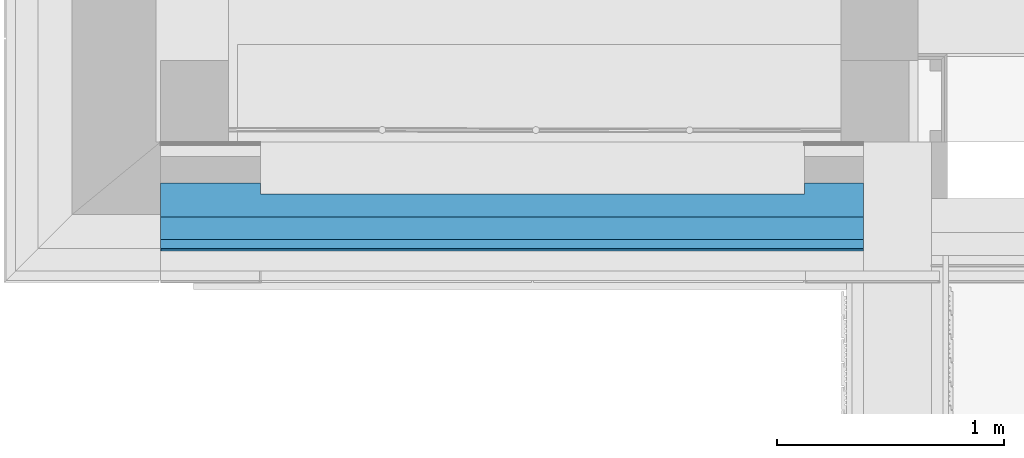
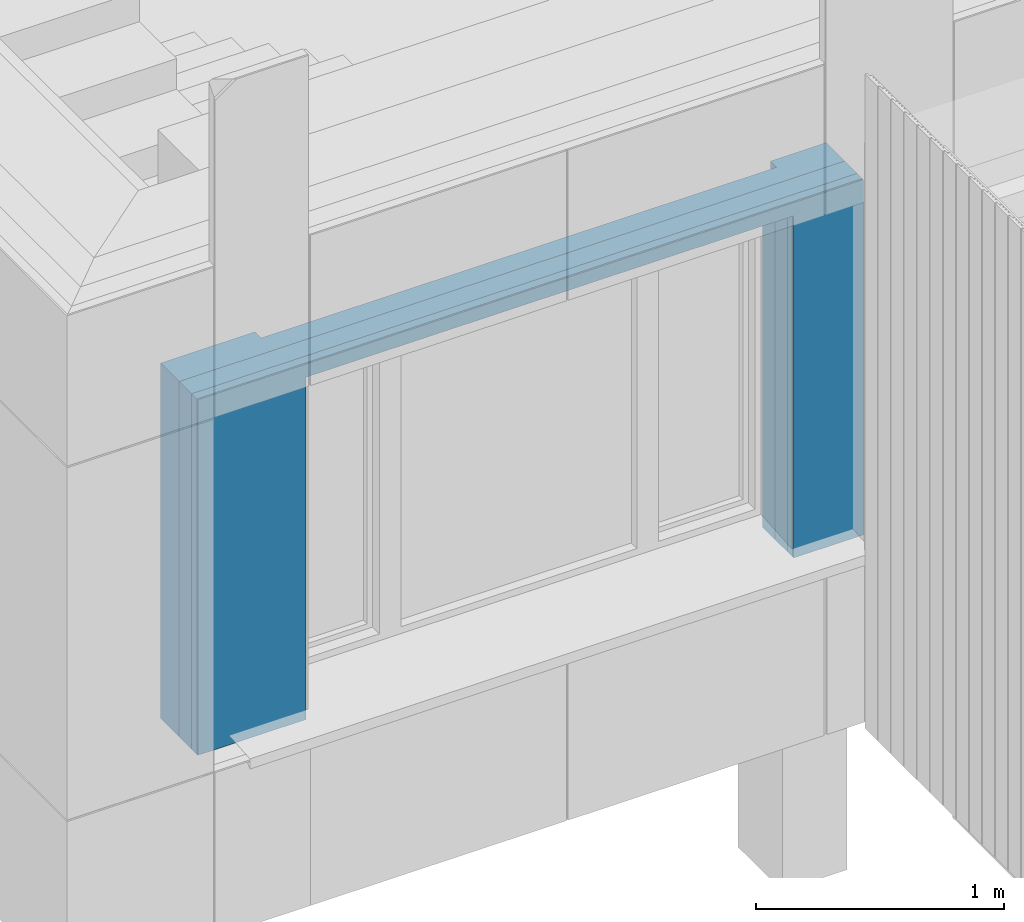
# One storey, part 29 of 418: 4 building element parts, 1 opening, 1 element without a shape of its own.
"""IFC2X3 building model written with IfcOpenShell, lengths in millimetres."""

import ifcopenshell
import ifcopenshell.guid

model = None  # the IFC model being written
_history = None  # IfcOwnerHistory: only IFC2X3 demands one
_inside = {}  # id of a spatial element -> (the spatial element, [elements in it])
_under = {}  # id of a project, library or spatial element -> (it, [spatial elements below it])
_declared = {}  # id of a project -> (the project, [libraries it declares])
_typed = {}  # id of a type object -> (the type object, [elements of that type])
_made_of = {}  # id of a material, layer set ... -> (it, [elements and type objects made of it])


def new_model(schema):
    """Start an empty IFC model of exactly this schema.

    Asked for "IFC4X3", IfcOpenShell would pick the latest addendum, in which some entities
    have other attributes; the version numbers below select the first issue.
    IFC2X3 requires an IfcOwnerHistory on every rooted entity: one is made here for all.
    """
    global model, _history
    if schema == "IFC4X3":
        model = ifcopenshell.file(schema_version=(4, 3, 0, 0))
    else:
        model = ifcopenshell.file(schema=schema)
    _inside.clear()
    _under.clear()
    _declared.clear()
    _typed.clear()
    _made_of.clear()
    _history = None
    if model.schema == "IFC2X3":
        org = make("IfcOrganization", Name="unknown")
        user = make(
            "IfcPersonAndOrganization",
            ThePerson=make("IfcPerson", FamilyName="unknown"),
            TheOrganization=org,
        )
        app = make(
            "IfcApplication",
            ApplicationDeveloper=org,
            Version="unknown",
            ApplicationFullName="unknown",
            ApplicationIdentifier="unknown",
        )
        _history = make(
            "IfcOwnerHistory",
            OwningUser=user,
            OwningApplication=app,
            ChangeAction="ADDED",
            CreationDate=0,
        )
    return model


def make(cls, **values):
    """One entity of the class cls with the attributes given. An attribute that is None is left unset."""
    return model.create_entity(
        cls, **{name: value for name, value in values.items() if value is not None}
    )


def entity(cls, *values):
    """Any entity or typed value of the class cls, its attributes in the order of the schema. None: left unset."""
    e = model.create_entity(cls)
    for i, value in enumerate(values):
        if value is not None:
            e[i] = value
    return e


def rooted(cls, **values):
    """An entity with a GlobalId (a new one), such as an element, a storey or a relation."""
    return make(cls, GlobalId=ifcopenshell.guid.new(), OwnerHistory=_history, **values)


def si_unit(unit_type, name, prefix=None):
    """IfcSIUnit, for example si_unit("LENGTHUNIT", "METRE", prefix="MILLI")."""
    return make("IfcSIUnit", UnitType=unit_type, Prefix=prefix, Name=name)


def converted_unit(unit_type, name, factor, base, dimensions=None, offset=None):
    """IfcConversionBasedUnit, such as the inch: factor (a typed value) times the base unit."""
    return make(
        "IfcConversionBasedUnit"
        if offset is None
        else "IfcConversionBasedUnitWithOffset",
        ConversionOffset=offset,
        Dimensions=None
        if dimensions is None
        else entity("IfcDimensionalExponents", *dimensions),
        UnitType=unit_type,
        Name=name,
        ConversionFactor=make(
            "IfcMeasureWithUnit", ValueComponent=factor, UnitComponent=base
        ),
    )


def derived_unit(unit_type, elements):
    """IfcDerivedUnit: a product of units, each with its exponent."""
    return make(
        "IfcDerivedUnit",
        Elements=[
            make("IfcDerivedUnitElement", Unit=unit, Exponent=power)
            for unit, power in elements
        ],
        UnitType=unit_type,
    )


def money_unit(currency):
    """IfcMonetaryUnit."""
    return make("IfcMonetaryUnit", Currency=currency)


def assignment(units):
    """IfcUnitAssignment: the units of a project."""
    return None if units is None else make("IfcUnitAssignment", Units=units)


def point(xyz):
    """IfcCartesianPoint."""
    return None if xyz is None else make("IfcCartesianPoint", Coordinates=xyz)


def direction(xyz):
    """IfcDirection."""
    return None if xyz is None else make("IfcDirection", DirectionRatios=xyz)


def frame(location, z_axis=None, x_axis=None):
    """IfcAxis2Placement3D, a coordinate frame: its origin and axes. An axis left out is left unset."""
    return make(
        "IfcAxis2Placement3D",
        Location=point(location),
        Axis=direction(z_axis),
        RefDirection=direction(x_axis),
    )


def frame_2d(location, x_axis=None):
    """IfcAxis2Placement2D, a coordinate frame in the plane: its origin and x axis."""
    return make(
        "IfcAxis2Placement2D", Location=point(location), RefDirection=direction(x_axis)
    )


def origin_with_axes():
    """The frame at (0, 0, 0) with the z axis (0, 0, 1) and the x axis (1, 0, 0) written out."""
    return frame((0.0, 0.0, 0.0), z_axis=(0.0, 0.0, 1.0), x_axis=(1.0, 0.0, 0.0))


def origin_2d_with_axis():
    """The frame at (0, 0) in the plane with the x axis (1, 0) written out."""
    return frame_2d((0.0, 0.0), x_axis=(1.0, 0.0))


def place(relative_to, where):
    """IfcLocalPlacement: puts the frame where relative to a parent placement (None: the world)."""
    return make(
        "IfcLocalPlacement", PlacementRelTo=relative_to, RelativePlacement=where
    )


def context(
    kind, dimensions, precision=None, world=None, true_north=None, identifier=None
):
    """IfcGeometricRepresentationContext, for example the 3D "Model" context."""
    return make(
        "IfcGeometricRepresentationContext",
        ContextIdentifier=identifier,
        ContextType=kind,
        CoordinateSpaceDimension=dimensions,
        Precision=precision,
        WorldCoordinateSystem=world,
        TrueNorth=true_north,
    )


def subcontext(parent, identifier, kind, view, scale=None):
    """IfcGeometricRepresentationSubContext, for example "Body" below "Model"."""
    return make(
        "IfcGeometricRepresentationSubContext",
        ContextIdentifier=identifier,
        ContextType=kind,
        ParentContext=parent,
        TargetScale=scale,
        TargetView=view,
    )


def project(units=None, contexts=None):
    """IfcProject with its units and contexts."""
    return rooted(
        "IfcProject",
        Name="project",
        RepresentationContexts=contexts,
        UnitsInContext=assignment(units),
    )


def spatial(cls, under=None, at=None, **own):
    """A site, building, storey or space (cls), placed at a placement, below another one or the project."""
    s = rooted(cls, ObjectPlacement=at, **own)
    if under is not None:
        _under.setdefault(under.id(), (under, []))[1].append(s)
    return s


def polyline(points):
    """IfcPolyline through the points."""
    return make("IfcPolyline", Points=[point(p) for p in points])


def profile(cls, at=None, kind="AREA", **sizes):
    """A parametric profile (cls). Its sizes go by their IFC names, for example OverallWidth=200.0."""
    return make(cls, ProfileType=kind, Position=at, **sizes)


def rectangle(**sizes):
    """IfcRectangleProfileDef."""
    return profile("IfcRectangleProfileDef", **sizes)


def outline(outer, holes=None, kind="AREA"):
    """IfcArbitraryClosedProfileDef: a profile drawn as a closed curve; with holes, ...WithVoids."""
    if holes is None:
        return make("IfcArbitraryClosedProfileDef", ProfileType=kind, OuterCurve=outer)
    return make(
        "IfcArbitraryProfileDefWithVoids",
        ProfileType=kind,
        OuterCurve=outer,
        InnerCurves=holes,
    )


def extrude(swept, where, along, depth):
    """IfcExtrudedAreaSolid: the profile swept, set in the frame where, extruded along a direction by depth."""
    return make(
        "IfcExtrudedAreaSolid",
        SweptArea=swept,
        Position=where,
        ExtrudedDirection=direction(along),
        Depth=depth,
    )


def shape(context_of_items, identifier, shape_type, items):
    """IfcShapeRepresentation: the items that make up one representation, for example the "Body"."""
    return make(
        "IfcShapeRepresentation",
        ContextOfItems=context_of_items,
        RepresentationIdentifier=identifier,
        RepresentationType=shape_type,
        Items=items,
    )


def material(Name=None, Category=None):
    """IfcMaterial."""
    return make("IfcMaterial", Name=Name, Category=Category)


def made_of(thing, what):
    """Note that an element or type object is made of a material, layer set ...; save() writes the relation."""
    if what is not None:
        _made_of.setdefault(what.id(), (what, []))[1].append(thing)
    return thing


def type_object(cls, material=None, **own):
    """A type object (cls), such as IfcWallType, which elements share."""
    return made_of(rooted(cls, **own), material)


def element(
    cls,
    number,
    at=None,
    inside=None,
    cuts=None,
    type_object=None,
    material=None,
    context=None,
    identifier="Body",
    shape_type=None,
    held_by="IfcProductDefinitionShape",
    body=None,
    shapes=None,
    **own,
):
    """One element of the class cls, such as IfcWall. Its Tag is "e" and its number.

    at: its placement. inside: the storey or other place that contains it. cuts: it is an
    opening in that element (IfcRelVoidsElement). A single representation is given by context,
    identifier, shape_type and body (its items); several are given by shapes. held_by: the class
    of the entity that holds the representations. save() writes the other relations.
    """
    e = rooted(cls, Tag="e%d" % number, ObjectPlacement=at, **own)
    if body is not None:
        shapes = [shape(context, identifier, shape_type, body)]
    if shapes is not None:
        e.Representation = make(held_by, Representations=shapes)
    if inside is not None:
        _inside.setdefault(inside.id(), (inside, []))[1].append(e)
    if cuts is not None:
        rooted(
            "IfcRelVoidsElement", RelatingBuildingElement=cuts, RelatedOpeningElement=e
        )
    if type_object is not None:
        _typed.setdefault(type_object.id(), (type_object, []))[1].append(e)
    return made_of(e, material)


def aggregate(whole, parts):
    """IfcRelAggregates: a whole, such as a stair, and the parts it consists of."""
    return rooted("IfcRelAggregates", RelatingObject=whole, RelatedObjects=parts)


def save(model, path):
    """Write the relations noted so far, then the file.

    IfcRelAggregates (storeys below a building ...), IfcRelContainedInSpatialStructure (elements
    in a storey), IfcRelDefinesByType, IfcRelAssociatesMaterial and IfcRelDeclares: one each for
    every whole, place, type object, material and project.
    """
    for whole, parts in _under.values():
        aggregate(whole, parts)
    for where, things in _inside.values():
        rooted(
            "IfcRelContainedInSpatialStructure",
            RelatedElements=things,
            RelatingStructure=where,
        )
    for kind, things in _typed.values():
        rooted("IfcRelDefinesByType", RelatedObjects=things, RelatingType=kind)
    for what, things in _made_of.values():
        rooted("IfcRelAssociatesMaterial", RelatedObjects=things, RelatingMaterial=what)
    for by, libraries in _declared.values():
        rooted("IfcRelDeclares", RelatingContext=by, RelatedDefinitions=libraries)
    model.write(path)


model = new_model("IFC2X3")

# Units and contexts
model_context = context("Model", 3, precision=0.01, world=origin_with_axes(), true_north=direction((0.0, 1.0)))
body_context = subcontext(model_context, "Body", "Model", "MODEL_VIEW")
ifc_project = project(units=[si_unit("LENGTHUNIT", "METRE", prefix="MILLI"), si_unit("AREAUNIT", "SQUARE_METRE"), si_unit("VOLUMEUNIT", "CUBIC_METRE"), converted_unit("PLANEANGLEUNIT", "DEGREE", entity("IfcPlaneAngleMeasure", 0.0174532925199), si_unit("PLANEANGLEUNIT", "RADIAN"), dimensions=[0, 0, 0, 0, 0, 0, 0]), si_unit("SOLIDANGLEUNIT", "STERADIAN"), money_unit("EUR"), converted_unit("TIMEUNIT", "Year", entity("IfcTimeMeasure", 31556926.0), si_unit("TIMEUNIT", "SECOND"), dimensions=[0, 0, 1, 0, 0, 0, 0]), si_unit("MASSUNIT", "GRAM", prefix="KILO"), si_unit("THERMODYNAMICTEMPERATUREUNIT", "DEGREE_CELSIUS"), si_unit("LUMINOUSINTENSITYUNIT", "LUMEN"), si_unit("ENERGYUNIT", "JOULE", prefix="MEGA"), derived_unit("THERMALCONDUCTANCEUNIT", [(si_unit("POWERUNIT", "WATT"), 1), (si_unit("LENGTHUNIT", "METRE"), -1), (si_unit("THERMODYNAMICTEMPERATUREUNIT", "KELVIN"), -1)]), derived_unit("SPECIFICHEATCAPACITYUNIT", [(si_unit("ENERGYUNIT", "JOULE"), 1), (si_unit("MASSUNIT", "GRAM", prefix="KILO"), -1), (si_unit("THERMODYNAMICTEMPERATUREUNIT", "KELVIN"), -1)]), derived_unit("MASSDENSITYUNIT", [(si_unit("MASSUNIT", "GRAM", prefix="KILO"), 1), (si_unit("VOLUMEUNIT", "CUBIC_METRE"), -1)])], contexts=[model_context])

# Site, building, storey
site_placement = place(None, origin_with_axes())
site = spatial("IfcSite", under=ifc_project, at=site_placement, Name="Paldiski mnt 245/1, Tallinn, Harjumaa", CompositionType="COMPLEX")
building_placement = place(site_placement, origin_with_axes())
building = spatial("IfcBuilding", under=site, at=building_placement, Name="RKAS Hoone üldnimetus (kasutust iseloomustav) -> IFC Project Manager -> SOLIBRI", CompositionType="ELEMENT")
storey_placement = place(building_placement, origin_with_axes())
storey = spatial("IfcBuildingStorey", under=building, at=storey_placement, Name="Esimene korrus", CompositionType="ELEMENT", Elevation=0.0)

# Wall, opening, building element parts
wall_type = type_object("IfcWallType", Name="VS-04_uued_kihid 300", PredefinedType="NOTDEFINED")
wall_placement = place(storey_placement, frame((-44490.0, -12690.0843011, 810.0), z_axis=(0.0, 0.0, 1.0), x_axis=(-1.0, 0.0, 0.0)))
wall = element("IfcWall", 1, at=wall_placement, inside=storey, type_object=wall_type, Name="VS-04")
opening_placement = place(wall_placement, frame((1460.0, 0.0, 0.0), z_axis=(0.0, 0.0, 1.0), x_axis=(1.0, 0.0, 0.0)))
element("IfcOpeningElement", 2, at=opening_placement, cuts=wall, Name="A-01", context=body_context, shape_type="SweptSolid", body=[
    extrude(rectangle(XDim=2270.0, YDim=1685.0, at=origin_2d_with_axis()), frame((0.0, 50.0, 842.5), z_axis=(0.0, 1.0, 0.0), x_axis=(1.0, 0.0, 0.0)), (0.0, 0.0, 1.0), 550.0),
    extrude(rectangle(XDim=2400.0, YDim=1750.0, at=origin_2d_with_axis()), frame((0.0, 50.0, 875.0), z_axis=(0.0, 1.0, 0.0), x_axis=(1.0, 0.0, 0.0)), (0.0, 0.0, -1.0), 80.0),
    extrude(rectangle(XDim=2400.0, YDim=1750.0, at=origin_2d_with_axis()), frame((0.0, -30.0, 875.0), z_axis=(0.0, -1.0, 0.0), x_axis=(1.0, 0.0, 0.0)), (0.0, 0.0, 1.0), 330.0),
])
ifc_material_1 = material(Name="Cembrit_C060")
building_element_part_1_placement = place(wall_placement, origin_with_axes())
building_element_part_1 = element("IfcBuildingElementPart", 3, at=building_element_part_1_placement, material=ifc_material_1, Name="Cembrit_C060", context=body_context, shape_type="SweptSolid", body=[
    extrude(outline(polyline([(0.0, 292.0), (3100.0, 292.0), (3100.0, 300.0), (0.0, 300.0), (0.0, 292.0)])), origin_with_axes(), (0.0, 0.0, 1.0), 1750.0),
])
ifc_material_2 = material(Name="VKR-06_Õhkvahe")
building_element_part_2_placement = place(wall_placement, origin_with_axes())
building_element_part_2 = element("IfcBuildingElementPart", 4, at=building_element_part_2_placement, material=ifc_material_2, Name="VKR-06_Õhkvahe", context=body_context, shape_type="SweptSolid", body=[
    extrude(outline(polyline([(0.0, 250.0), (3100.0, 250.0), (3100.0, 292.0), (0.0, 292.0), (0.0, 250.0)])), origin_with_axes(), (0.0, 0.0, 1.0), 1750.0),
])
ifc_material_3 = material(Name="Kingspan Kooltherm")
building_element_part_3_placement = place(wall_placement, origin_with_axes())
building_element_part_3 = element("IfcBuildingElementPart", 5, at=building_element_part_3_placement, material=ifc_material_3, Name="Kingspan Kooltherm", context=body_context, shape_type="SweptSolid", body=[
    extrude(outline(polyline([(0.0, 150.0), (3100.0, 150.0), (3100.0, 250.0), (0.0, 250.0), (0.0, 150.0)])), origin_with_axes(), (0.0, 0.0, 1.0), 1750.0),
])
building_element_part_4_placement = place(wall_placement, origin_with_axes())
building_element_part_4 = element("IfcBuildingElementPart", 6, at=building_element_part_4_placement, material=ifc_material_3, Name="Kingspan Kooltherm", context=body_context, shape_type="SweptSolid", body=[
    extrude(outline(polyline([(0.0, 0.0), (3100.0, 0.0), (3100.0, 150.0), (0.0, 150.0), (0.0, 0.0)])), origin_with_axes(), (0.0, 0.0, 1.0), 1750.0),
])
aggregate(wall, [building_element_part_1, building_element_part_2, building_element_part_3, building_element_part_4])

save(model, "model.ifc")
